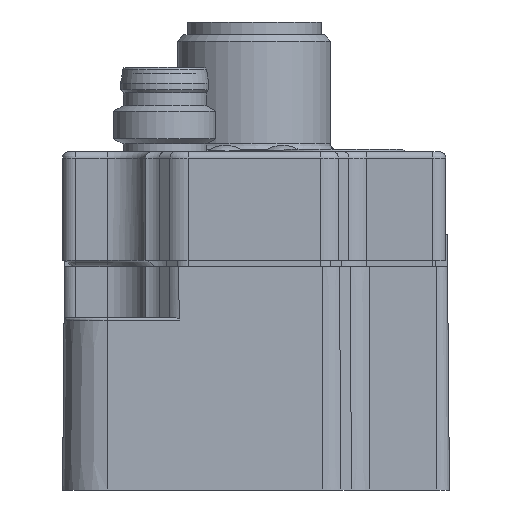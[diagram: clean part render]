
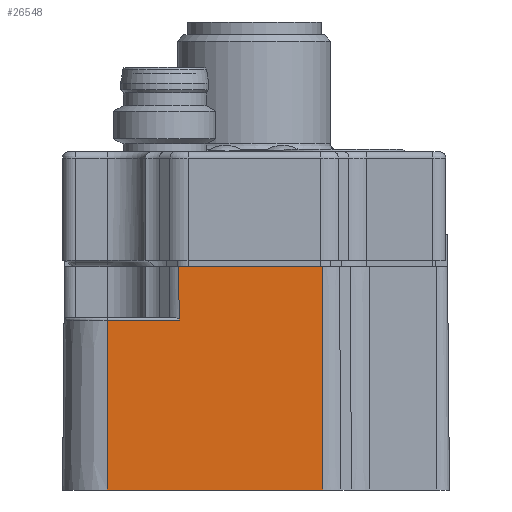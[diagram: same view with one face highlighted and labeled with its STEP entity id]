
A CAD part, front view. The second image highlights one B-rep face of the part: STEP entity #26548.
In plain terms, the highlighted planar face has unit normal (0, -1, 0.009).
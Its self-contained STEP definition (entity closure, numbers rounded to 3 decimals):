
#16484=CARTESIAN_POINT('',(-0.188,0.153,5.811));
#16485=VERTEX_POINT('',#16484);
#16493=CARTESIAN_POINT('',(11.134,0.153,5.811));
#16494=VERTEX_POINT('',#16493);
#16495=CARTESIAN_POINT('',(11.134,0.153,5.811));
#16496=DIRECTION('',(-1.0,0.0,0.0));
#16497=VECTOR('',#16496,11.322);
#16498=LINE('',#16495,#16497);
#16499=EDGE_CURVE('',#16494,#16485,#16498,.T.);
#26368=CARTESIAN_POINT('',(-5.75,0.116,1.613));
#26369=VERTEX_POINT('',#26368);
#26412=CARTESIAN_POINT('',(-0.093,0.116,1.613));
#26413=VERTEX_POINT('',#26412);
#26442=CARTESIAN_POINT('',(-5.75,0.116,1.613));
#26443=DIRECTION('',(1.0,0.0,0.0));
#26444=VECTOR('',#26443,5.657);
#26445=LINE('',#26442,#26444);
#26446=EDGE_CURVE('',#26369,#26413,#26445,.T.);
#26489=CARTESIAN_POINT('',(11.134,0.,-11.689));
#26490=DIRECTION('',(0.,-1.,0.009));
#26491=DIRECTION('',(1.0,0.0,0.0));
#26492=AXIS2_PLACEMENT_3D('',#26489,#26490,#26491);
#26493=PLANE('',#26492);
#26494=CARTESIAN_POINT('',(-0.098,0.118,1.811));
#26495=VERTEX_POINT('',#26494);
#26496=CARTESIAN_POINT('',(-0.093,0.116,1.613));
#26497=CARTESIAN_POINT('',(-0.095,0.117,1.712));
#26498=CARTESIAN_POINT('',(-0.098,0.118,1.811));
#26506=(BOUNDED_CURVE()B_SPLINE_CURVE(2,(#26496,#26497,#26498),.UNSPECIFIED.,.F.,.U.)B_SPLINE_CURVE_WITH_KNOTS((3,3),(0.26,0.28),.UNSPECIFIED.)CURVE()GEOMETRIC_REPRESENTATION_ITEM()RATIONAL_B_SPLINE_CURVE((1.,1.,1.))REPRESENTATION_ITEM(''));
#26507=EDGE_CURVE('',#26413,#26495,#26506,.T.);
#26508=ORIENTED_EDGE('',*,*,#26507,.F.);
#26509=ORIENTED_EDGE('',*,*,#26446,.F.);
#26510=CARTESIAN_POINT('',(-5.75,0.,-11.689));
#26511=VERTEX_POINT('',#26510);
#26512=CARTESIAN_POINT('',(-5.75,0.,-11.689));
#26513=DIRECTION('',(0.0,0.009,1.));
#26514=VECTOR('',#26513,13.302);
#26515=LINE('',#26512,#26514);
#26516=EDGE_CURVE('',#26511,#26369,#26515,.T.);
#26517=ORIENTED_EDGE('',*,*,#26516,.F.);
#26518=CARTESIAN_POINT('',(11.134,0.,-11.689));
#26519=VERTEX_POINT('',#26518);
#26520=CARTESIAN_POINT('',(11.134,0.,-11.689));
#26521=DIRECTION('',(-1.0,0.0,0.0));
#26522=VECTOR('',#26521,16.884);
#26523=LINE('',#26520,#26522);
#26524=EDGE_CURVE('',#26519,#26511,#26523,.T.);
#26525=ORIENTED_EDGE('',*,*,#26524,.F.);
#26526=CARTESIAN_POINT('',(11.134,0.,-11.689));
#26527=DIRECTION('',(0.0,0.009,1.));
#26528=VECTOR('',#26527,17.501);
#26529=LINE('',#26526,#26528);
#26530=EDGE_CURVE('',#26519,#16494,#26529,.T.);
#26531=ORIENTED_EDGE('',*,*,#26530,.T.);
#26532=ORIENTED_EDGE('',*,*,#16499,.T.);
#26533=CARTESIAN_POINT('',(-0.188,0.153,5.811));
#26534=CARTESIAN_POINT('',(-0.143,0.134,3.686));
#26535=CARTESIAN_POINT('',(-0.098,0.118,1.811));
#26543=(BOUNDED_CURVE()B_SPLINE_CURVE(2,(#26533,#26534,#26535),.UNSPECIFIED.,.F.,.U.)B_SPLINE_CURVE_WITH_KNOTS((3,3),(0.0,0.4),.UNSPECIFIED.)CURVE()GEOMETRIC_REPRESENTATION_ITEM()RATIONAL_B_SPLINE_CURVE((1.0,1.,1.0))REPRESENTATION_ITEM(''));
#26544=EDGE_CURVE('',#16485,#26495,#26543,.T.);
#26545=ORIENTED_EDGE('',*,*,#26544,.T.);
#26546=EDGE_LOOP('',(#26508,#26509,#26517,#26525,#26531,#26532,#26545));
#26547=FACE_OUTER_BOUND('',#26546,.T.);
#26548=ADVANCED_FACE('',(#26547),#26493,.T.);
